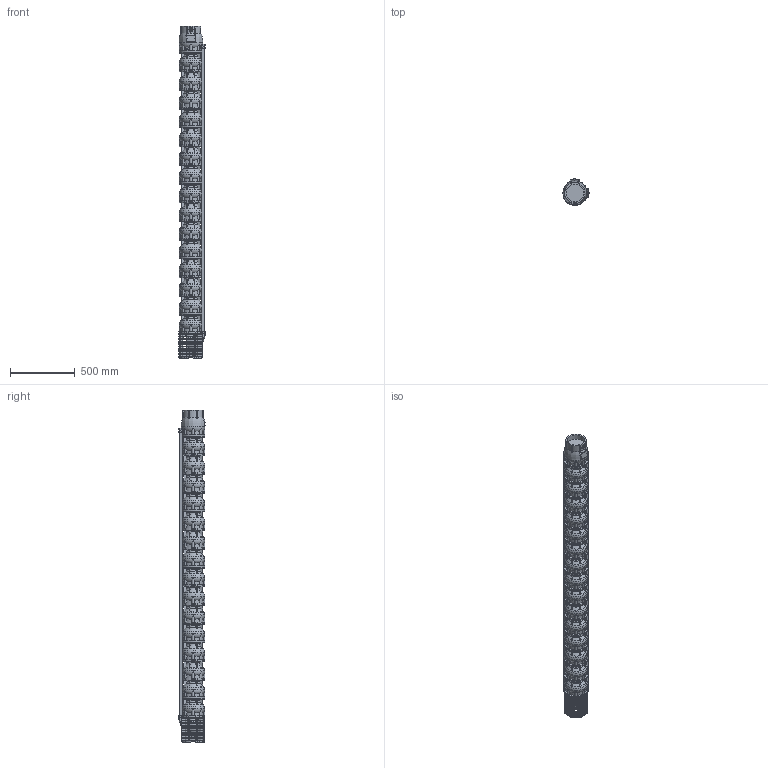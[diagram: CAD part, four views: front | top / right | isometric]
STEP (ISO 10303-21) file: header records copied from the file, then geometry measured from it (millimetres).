
FILE_DESCRIPTION(/* description */ ('Unknown'),/* implementation_level */ '2;1');
FILE_NAME(/* name */ 'VSI134-15_WR_M8-50_SLE',/* time_stamp */ '2023-09-14T14:57:27+02:00',/* author */ ('Unknown'),/* organization */ ('Unknown'),/* preprocessor_version */ 'ST-DEVELOPER v18.102',/* originating_system */ 'Solid Edge',/* authorisation */ 'Unknown');
FILE_SCHEMA (('AUTOMOTIVE_DESIGN {1 0 10303 214 3 1 1}'));
Products named in the file (11): VSI134-15_WR_M8-50_SLE; VSI134_testata; VSI134_diffusore; VSI134_supporto_8×8; VSI134_filtro_A; VSI134_filtro_B; VSI134_terminale_top_copricavo_basso; VSI134_terminale_bottom_copricavo_basso; LOW 134-15; M5X8_UNI7687; VSI134_giunto_8×8
Assembly tree (38 placements, depth 2):
  VSI134-15_WR_M8-50_SLE
    VSI134_testata
    VSI134_diffusore  x15
    VSI134_supporto_8×8
    VSI134_filtro_A
    VSI134_filtro_B
    VSI134_terminale_top_copricavo_basso  x2
    VSI134_terminale_bottom_copricavo_basso  x2
    LOW 134-15  x2
    M5X8_UNI7687  x12
    VSI134_giunto_8×8
Bounding box: 201.57 x 202.09 x 2572 mm (x, y, z)
Volume: 47686641 mm3; surface area: 3917834.9 mm2
Topology: 77 solids, 79 shells, 5097 faces, 14381 edges, 9601 vertices
Faces by surface type: plane 3615, torus 701, cylinder 666, cone 70, bspline 31, sphere 14
Full cylindrical faces by diameter (mm): 2.4 x2, 3 x2, 4.2 x16, 5 x12, 5.5 x8, 26 x1, 44 x1, 69 x1, 74 x1, 98 x1, 135.472 x1, 157 x1, 182 x16
Entity records: 85617 total; most frequent: CARTESIAN_POINT 18371, ORIENTED_EDGE 14056, DIRECTION 13506, EDGE_CURVE 7028, VERTEX_POINT 4730, AXIS2_PLACEMENT_3D 4604, LINE 4298, VECTOR 4298
